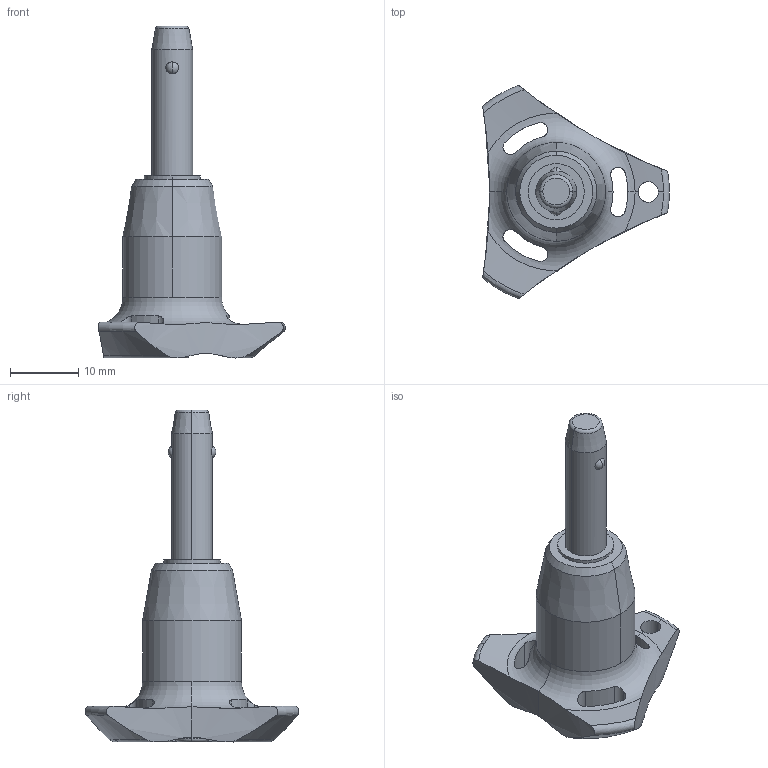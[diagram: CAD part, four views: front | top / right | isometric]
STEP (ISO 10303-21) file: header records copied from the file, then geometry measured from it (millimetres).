
FILE_DESCRIPTION (( 'STEP AP203' ), '1' );
FILE_NAME ('QR1714.M06-015-S.step', '2025-11-12T09:58:02', ( '' ), ( '' ), 'SwSTEP 2.0', 'SolidWorks 2019', '' );
FILE_SCHEMA (( 'CONFIG_CONTROL_DESIGN' ));
Length unit declared in the file: millimetre
Products named in the file (1): QR1714.M06-015-S
Bounding box: 27.4 x 31.31 x 48.7 mm (x, y, z)
Volume: 5390.2 mm3; surface area: 2835.5 mm2
Topology: 1 solids, 1 shells, 66 faces, 183 edges, 117 vertices
Faces by surface type: cylinder 30, cone 14, torus 12, sphere 6, plane 4
Entity records: 2729 total; most frequent: CARTESIAN_POINT 1001, ORIENTED_EDGE 366, DIRECTION 336, EDGE_CURVE 183, AXIS2_PLACEMENT_3D 150, VERTEX_POINT 117, CIRCLE 83, EDGE_LOOP 72
